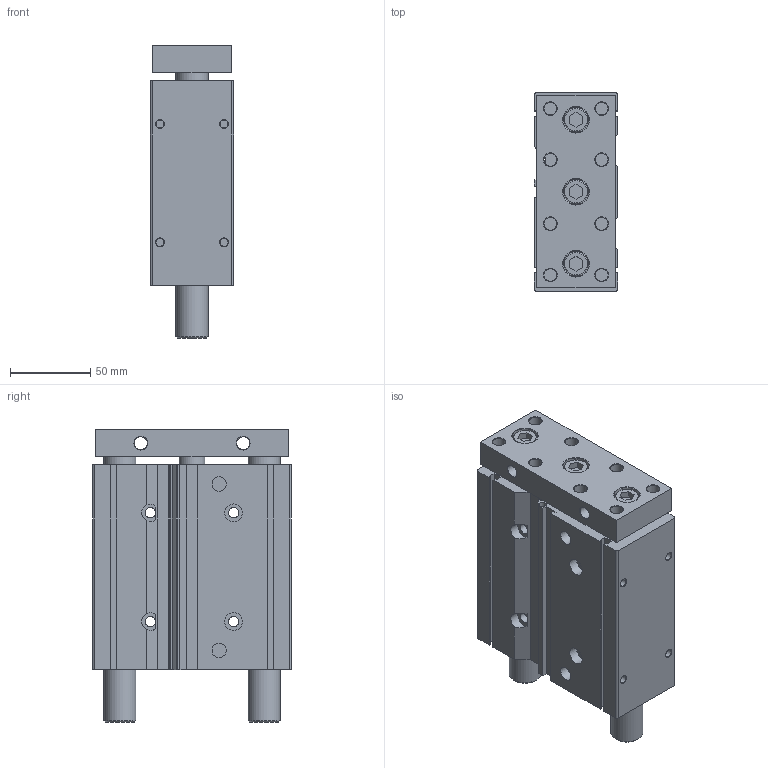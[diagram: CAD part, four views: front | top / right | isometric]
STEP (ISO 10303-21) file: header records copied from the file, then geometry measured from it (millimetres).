
FILE_DESCRIPTION((''),'2;1');
FILE_NAME('I:\3D電子目錄\氣缸\TB(U)\TB(U)40\TB(U)40\TB(U)40x75.stp','2007-08-06T09:06:14',('Administrator'),(''),'Autodesk Inventor 2008','Autodesk Inventor 2008','');
FILE_SCHEMA(('AUTOMOTIVE_DESIGN { 1 0 10303 214 1 1 1 1 }'));
Length unit declared in the file: millimetre
Products named in the file (1): TB(U)40X75
Bounding box: 52 x 124 x 183 mm (x, y, z)
Volume: 871770.9 mm3; surface area: 104657.9 mm2
Topology: 1 solids, 1 shells, 218 faces, 500 edges, 320 vertices
Faces by surface type: plane 104, cylinder 52, cone 37, bspline 22, torus 3
Full cylindrical faces by diameter (mm): 5 x4, 6 x4, 6.5 x4, 8 x10, 9 x2, 11 x6, 15 x3, 16 x4, 20 x4, 28 x2, 35 x1
Entity records: 5822 total; most frequent: CARTESIAN_POINT 1073, DIRECTION 962, ORIENTED_EDGE 824, EDGE_CURVE 412, EDGE_LOOP 374, AXIS2_PLACEMENT_3D 353, VERTEX_POINT 320, VECTOR 256
